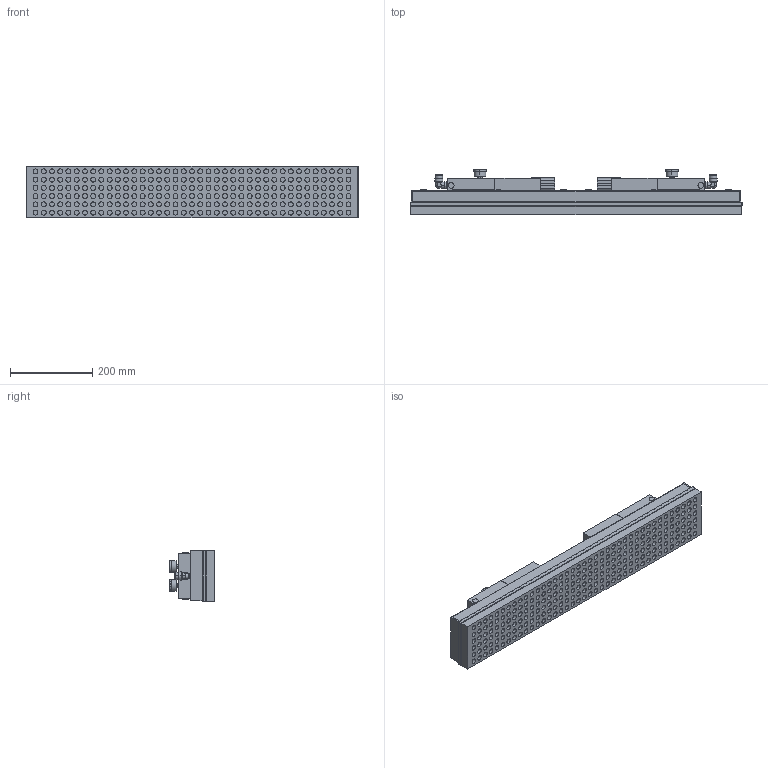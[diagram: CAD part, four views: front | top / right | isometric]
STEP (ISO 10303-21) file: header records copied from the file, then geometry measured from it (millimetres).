
FILE_DESCRIPTION (( 'STEP AP214' ), '1' );
FILE_NAME ('3-9-15200.STEP', '2012-09-13T06:15:37', ( 'cad' ), ( 'Microsoft' ), 'SwSTEP 2.0', 'SolidWorks 2012', '' );
FILE_SCHEMA (( 'AUTOMOTIVE_DESIGN' ));
Length unit declared in the file: millimetre
Products named in the file (1): 3-9-15200
Bounding box: 806 x 111 x 126 mm (x, y, z)
Volume: 6813266.4 mm3; surface area: 610969.9 mm2
Topology: 1 solids, 1 shells, 1373 faces, 3052 edges, 1978 vertices
Faces by surface type: cylinder 654, plane 637, cone 72, bspline 8, sphere 2
Entity records: 51199 total; most frequent: CARTESIAN_POINT 7132, DIRECTION 7072, ORIENTED_EDGE 6104, EDGE_CURVE 3052, AXIS2_PLACEMENT_3D 2758, VERTEX_POINT 1978, EDGE_LOOP 1670, VECTOR 1556
